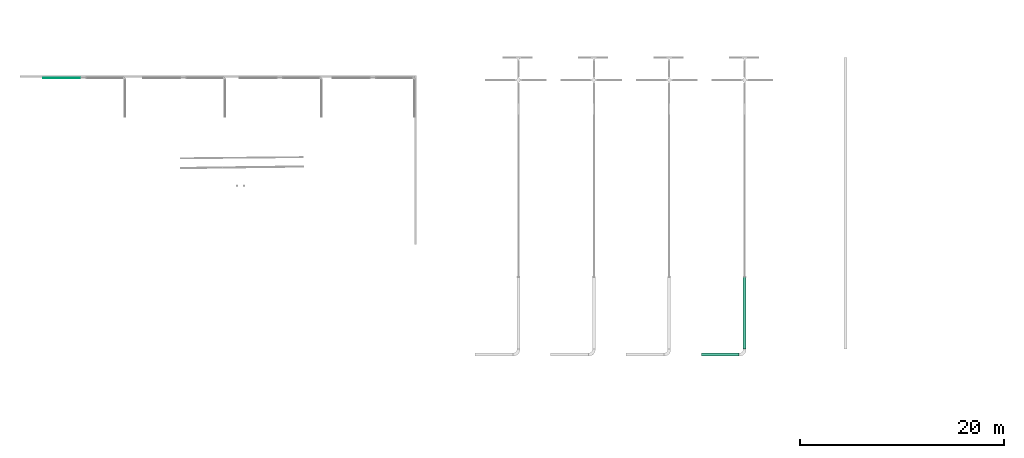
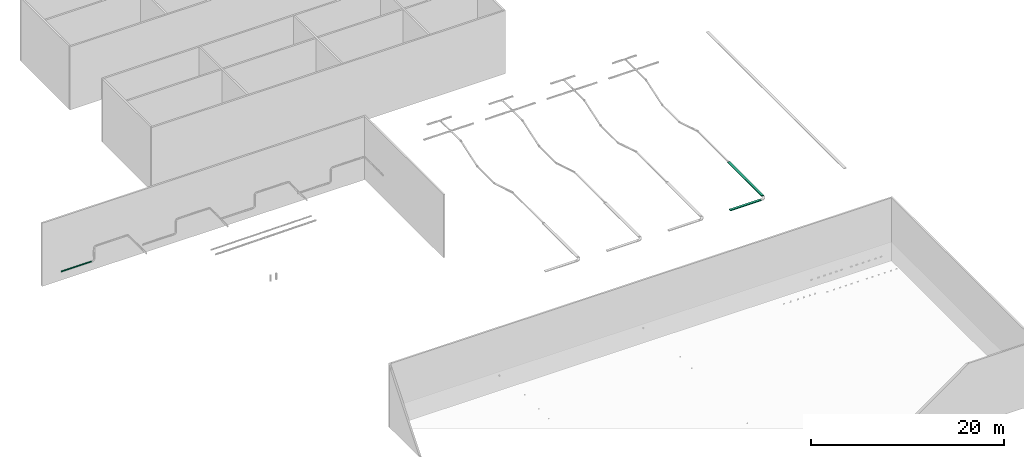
# One storey, part 11 of 197: 3 flow segments.
"""IFC2X3 building model written with IfcOpenShell, lengths in metres."""

from ifc_helpers import new_model, entity, si_unit, converted_unit, direction, frame, frame_2d, origin, origin_2d_with_axis, place, context, subcontext, project, spatial, rectangle, extrude, type_object, element, save


model = new_model("IFC2X3")

# Units and contexts
model_context = context("Model", 3, precision=1e-05, world=origin(), true_north=direction((6.123031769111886e-17, 1.0)))
body_context = subcontext(model_context, "Body", "Model", "MODEL_VIEW")
ifc_project = project(units=[si_unit("LENGTHUNIT", "METRE"), converted_unit("PLANEANGLEUNIT", "DEGREE", entity("IfcPlaneAngleMeasure", 0.017453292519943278), si_unit("PLANEANGLEUNIT", "RADIAN"), dimensions=[0, 0, 0, 0, 0, 0, 0]), si_unit("AREAUNIT", "SQUARE_METRE")], contexts=[model_context])

# Site, building, storey
site_placement = place(None, origin())
site = spatial("IfcSite", under=ifc_project, at=site_placement, Name="Default", CompositionType="ELEMENT")
building_placement = place(site_placement, origin())
building = spatial("IfcBuilding", under=site, at=building_placement, CompositionType="ELEMENT")
storey_placement = place(building_placement, origin())
storey = spatial("IfcBuildingStorey", under=building, at=storey_placement, Name="Niveau 0", CompositionType="ELEMENT", Elevation=0.0)

# Flow segments
cable_carrier_segment_type_1 = type_object("IfcCableCarrierSegmentType", Name="Chemin de câbles avec raccords:CDC ENEDIS", PredefinedType="CABLETRAYSEGMENT")
flow_segment_1_placement = place(storey_placement, origin())
element("IfcFlowSegment", 1, at=flow_segment_1_placement, inside=storey, type_object=cable_carrier_segment_type_1, Name="Chemin de câbles avec raccords:CDC ENEDIS", ObjectType="Chemin de câbles avec raccords:CDC ENEDIS", context=body_context, shape_type="SweptSolid", body=[
    extrude(rectangle(XDim=3.7119999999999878, YDim=0.3000000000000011, at=frame_2d((0.0, -8.659739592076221e-15), x_axis=(1.0, 0.0))), frame((-490.3489800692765, 124.74551308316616, 2.6999999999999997), z_axis=(0.0, 0.0, 1.0), x_axis=(-1.0, 0.0, 0.0)), (0.0, 0.0, 1.0), 0.1),
])
flow_segment_2_placement = place(storey_placement, origin())
element("IfcFlowSegment", 2, at=flow_segment_2_placement, inside=storey, type_object=cable_carrier_segment_type_1, Name="Chemin de câbles avec raccords:CDC ENEDIS", ObjectType="Chemin de câbles avec raccords:CDC ENEDIS", context=body_context, shape_type="SweptSolid", body=[
    extrude(rectangle(XDim=7.041999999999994, YDim=0.3000000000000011, at=origin_2d_with_axis()), frame((-487.9629800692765, 128.79651308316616, 2.6999999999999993), z_axis=(0.0, 0.0, 1.0), x_axis=(0.0, 1.0, 0.0)), (0.0, 0.0, 1.0), 0.1),
])
cable_carrier_segment_type_2 = type_object("IfcCableCarrierSegmentType", Name="Chemin de câbles avec raccords:GOULOTTE INTRUSION", PredefinedType="CABLETRAYSEGMENT")
flow_segment_3_placement = place(storey_placement, origin())
element("IfcFlowSegment", 3, at=flow_segment_3_placement, inside=storey, type_object=cable_carrier_segment_type_2, Name="Chemin de câbles avec raccords:GOULOTTE INTRUSION", ObjectType="Chemin de câbles avec raccords:GOULOTTE INTRUSION", context=body_context, shape_type="SweptSolid", body=[
    extrude(rectangle(XDim=3.6410000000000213, YDim=0.04999999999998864, at=origin_2d_with_axis()), frame((-554.8339540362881, 151.82535524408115, 1.0257853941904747)), (0.0, 0.0, 1.0), 0.15000000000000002),
])

save(model, "model.ifc")
